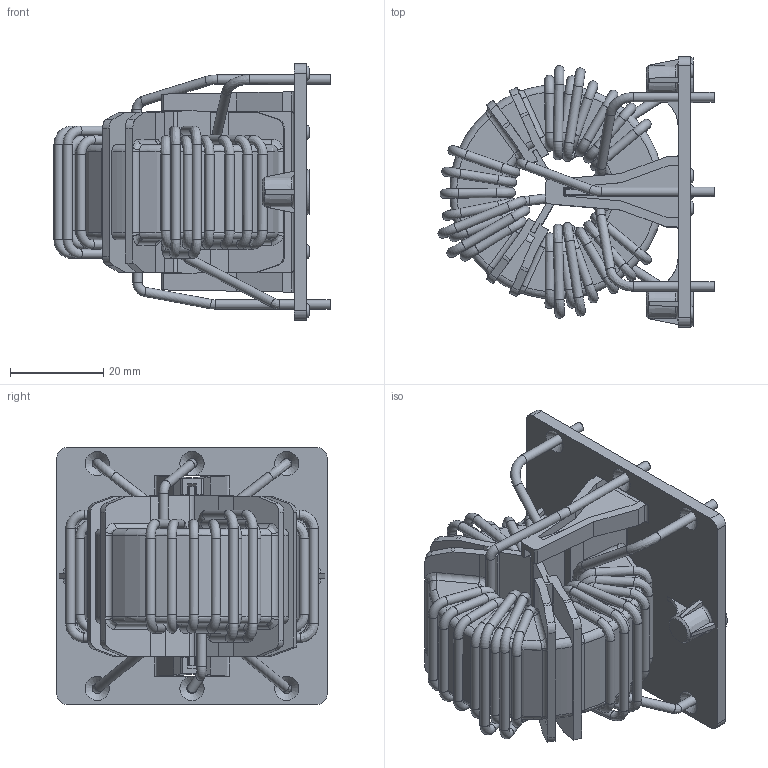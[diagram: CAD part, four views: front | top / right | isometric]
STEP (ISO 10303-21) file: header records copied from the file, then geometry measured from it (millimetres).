
FILE_DESCRIPTION((''),'2;1');
FILE_NAME('K:\Development\Projects\RB\Angel_standard choke series 2011\70_Realization_Revision\702_MechanicalDesign\RB6532-16-0M8\RB6532-16-0M8.stp','2012-12-20T12:43:57',('BIN.FAN'),(''),'Autodesk Inventor 2010','Autodesk Inventor 2010','');
FILE_SCHEMA(('AUTOMOTIVE_DESIGN { 1 0 10303 214 1 1 1 1 }'));
Length unit declared in the file: millimetre
Products named in the file (1): RB6532-16-0M8  for customer_包覆面提取_1
Bounding box: 59.24 x 58 x 55 mm (x, y, z)
Volume: 45533.8 mm3; surface area: 33696.8 mm2
Topology: 1 solids, 1 shells, 992 faces, 2797 edges, 1721 vertices
Faces by surface type: plane 365, cylinder 216, bspline 212, torus 171, cone 28
Full cylindrical faces by diameter (mm): 2 x66, 2.2 x6, 3 x8, 9.6 x1
Entity records: 39017 total; most frequent: CARTESIAN_POINT 15445, ORIENTED_EDGE 4982, DIRECTION 4121, EDGE_CURVE 2491, VERTEX_POINT 1605, AXIS2_PLACEMENT_3D 1508, EDGE_LOOP 1196, VECTOR 1105
